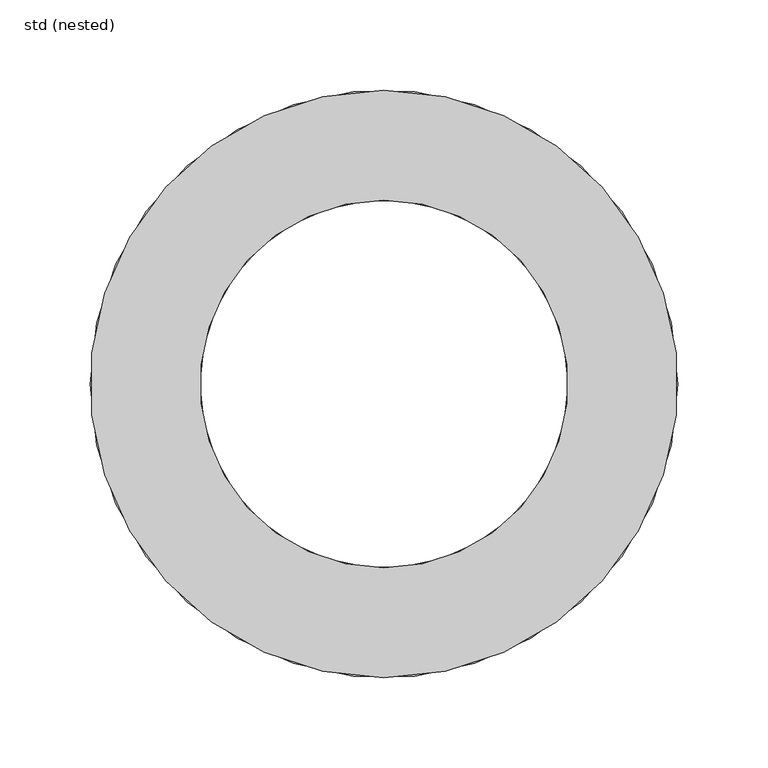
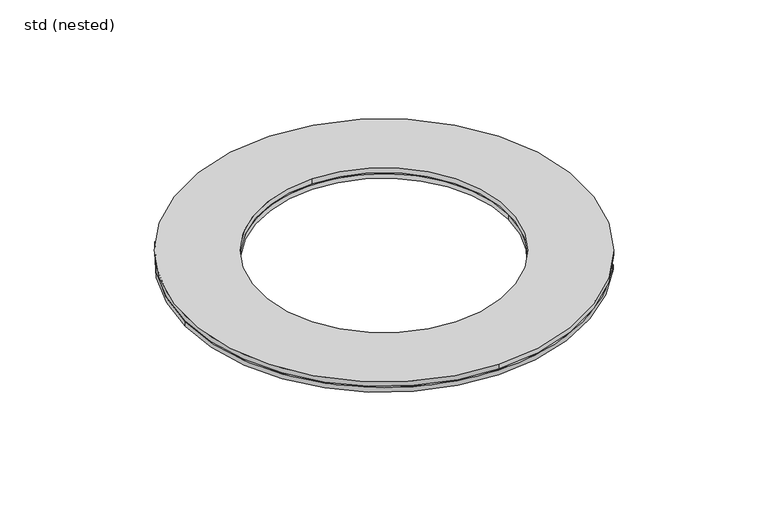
"""IFC4 building model written with IfcOpenShell, lengths in millimetres: sanitary terminal geometry, ZZZ_do not use_PF_GEN_WPB_flange seal for Passavant Jet_ACO : std (nested)."""

from ifc_helpers import new_model, si_unit, point, frame, origin, origin_with_axes, origin_2d, place, context, project, spatial, circle_curve, trimmed, segment, composite_curve, outline, extrude, source, transform, mapped, element, save


def std_nested_7d449d44(model_context):
    return source(origin(), model_context, "Body", "SweptSolid", [
        extrude(outline(composite_curve([segment(trimmed(circle_curve(origin_2d(), 163.0), [point((0.0, 163.0))], [point((0.0, -163.0))], False, "CARTESIAN"), True, "CONTINUOUS"), segment(trimmed(circle_curve(origin_2d(), 163.0), [point((0.0, -163.0))], [point((0.0, 163.0))], False, "CARTESIAN"), True, "CONTINUOUS")], self_intersect=False), holes=[composite_curve([segment(trimmed(circle_curve(origin_2d(), 102.0), [point((0.0, 102.0))], [point((0.0, -102.0))], True, "CARTESIAN"), True, "CONTINUOUS"), segment(trimmed(circle_curve(origin_2d(), 102.0), [point((0.0, -102.0))], [point((0.0, 102.0))], True, "CARTESIAN"), True, "CONTINUOUS")], self_intersect=False)]), frame((0.0, 0.0, 5.0), z_axis=(0.0, 0.0, 1.0), x_axis=(1.0, 0.0, 0.0)), (0.0, 0.0, 1.0), 4.0),
        extrude(outline(composite_curve([segment(trimmed(circle_curve(origin_2d(), 163.0), [point((-163.0, 0.0))], [point((163.0, 0.0))], False, "CARTESIAN"), True, "CONTINUOUS"), segment(trimmed(circle_curve(origin_2d(), 163.0), [point((163.0, 0.0))], [point((-163.0, 0.0))], False, "CARTESIAN"), True, "CONTINUOUS")], self_intersect=False), holes=[composite_curve([segment(trimmed(circle_curve(origin_2d(), 102.0), [point((-102.0, 0.0))], [point((102.0, 0.0))], True, "CARTESIAN"), True, "CONTINUOUS"), segment(trimmed(circle_curve(origin_2d(), 102.0), [point((102.0, 0.0))], [point((-102.0, 0.0))], True, "CARTESIAN"), True, "CONTINUOUS")], self_intersect=False)]), origin_with_axes(), (0.0, 0.0, 1.0), 4.0),
    ])


if __name__ == "__main__":
    model = new_model("IFC4")
    model_context = context("Model", 3, world=origin())
    ifc_project = project(units=[si_unit("LENGTHUNIT", "METRE", prefix="MILLI")], contexts=[model_context])
    site = spatial("IfcSite", under=ifc_project)
    building = spatial("IfcBuilding", under=site)
    placement = place(None, origin())
    std_nested_shape = std_nested_7d449d44(model_context)
    element("IfcSanitaryTerminal", 1, ObjectType="ZZZ_do not use_PF_GEN_WPB_flange seal for Passavant Jet_ACO : std (nested)", at=placement, inside=building, context=model_context, shape_type="MappedRepresentation", body=[
        mapped(std_nested_shape, transform((0.0, 0.0, 0.0), x_axis=(1.0, 0.0, 0.0), y_axis=(0.0, 1.0, 0.0), z_axis=(0.0, 0.0, 1.0))),
    ])
    save(model, "model.ifc")
